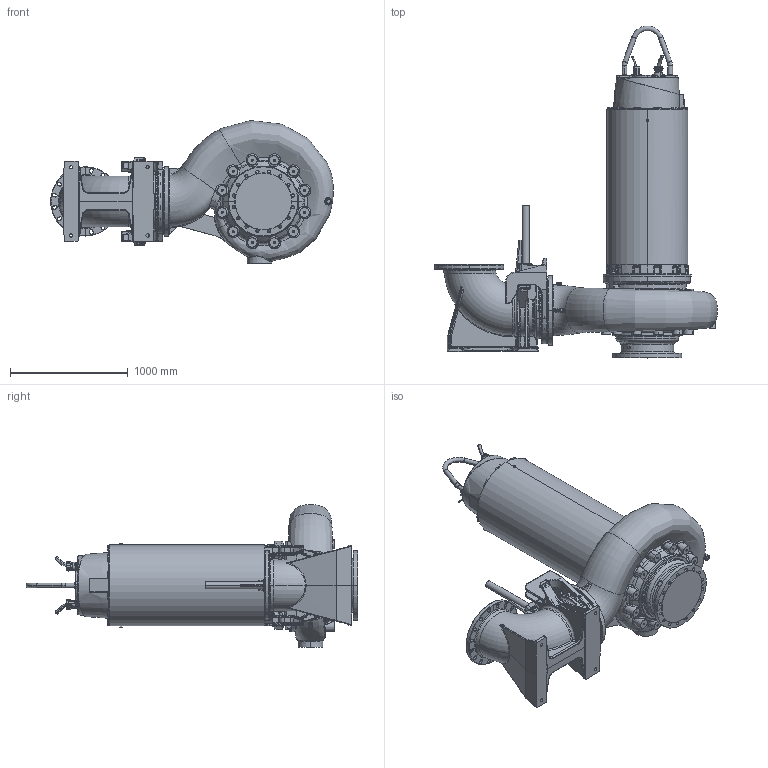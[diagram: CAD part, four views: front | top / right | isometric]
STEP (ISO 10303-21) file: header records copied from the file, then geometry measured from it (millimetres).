
FILE_DESCRIPTION (( 'STEP AP214' ), '1' );
FILE_NAME ('PE7_XFP400T-CH3_WET_B.STEP', '2017-03-30T08:42:27', ( '' ), ( '' ), 'SwSTEP 2.0', 'SolidWorks 2017', '' );
FILE_SCHEMA (( 'AUTOMOTIVE_DESIGN' ));
Length unit declared in the file: millimetre
Products named in the file (1): PE7_XFP400T-CH3_WET_B
Bounding box: 2406.18 x 2824.5 x 1215.77 mm (x, y, z)
Volume: 1262573484.3 mm3; surface area: 14622223.8 mm2
Topology: 4 solids, 21 shells, 4670 faces, 11472 edges, 6680 vertices
Faces by surface type: cylinder 1418, plane 1083, bspline 1004, torus 499, cone 382, sphere 284
Entity records: 286828 total; most frequent: CARTESIAN_POINT 134263, ORIENTED_EDGE 22414, DIRECTION 19823, EDGE_CURVE 11207, AXIS2_PLACEMENT_3D 7998, VERTEX_POINT 6674, EDGE_LOOP 4971, UNCERTAINTY_MEASURE_WITH_UNIT 4676
